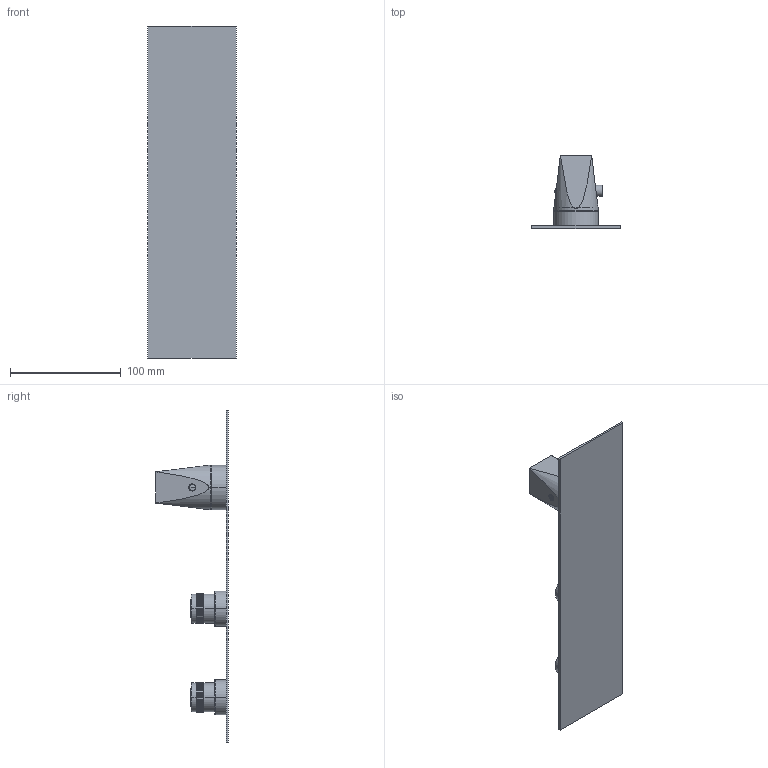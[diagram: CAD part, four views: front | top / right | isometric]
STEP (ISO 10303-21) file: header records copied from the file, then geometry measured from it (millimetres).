
FILE_DESCRIPTION((''),'2;1');
FILE_NAME('49600V221_SW0001','2023-09-21T09:31:52',('carloff'),(''),'CREO PARAMETRIC BY PTC INC, 2022014','CREO PARAMETRIC BY PTC INC, 2022014','');
FILE_SCHEMA(('CONFIG_CONTROL_DESIGN'));
Products named in the file (1): 49600V221_SW0001
Bounding box: 80 x 65.8 x 300 mm (x, y, z)
Volume: 136226.1 mm3; surface area: 70398.3 mm2
Topology: 2 solids, 2 shells, 3371 faces, 8392 edges, 5540 vertices
Faces by surface type: bspline 2560, cylinder 735, plane 42, torus 18, cone 10, sphere 6
Entity records: 142383 total; most frequent: CARTESIAN_POINT 79591, ORIENTED_EDGE 16768, EDGE_CURVE 8384, VERTEX_POINT 5540, B_SPLINE_CURVE_WITH_KNOTS 5222, DIRECTION 5161, EDGE_LOOP 3896, FACE_OUTER_BOUND 3371
